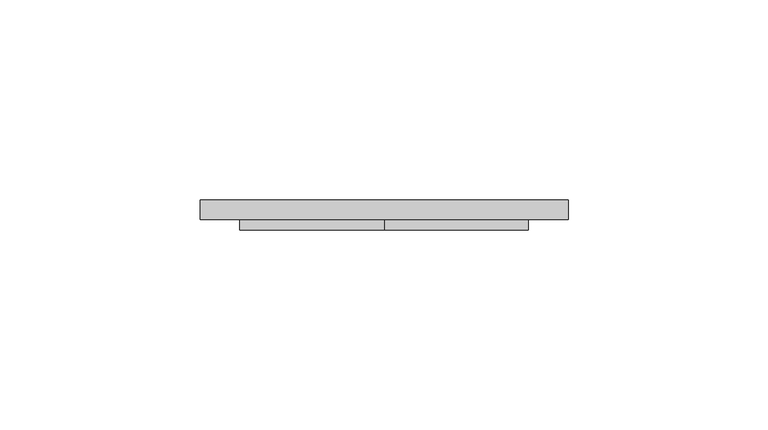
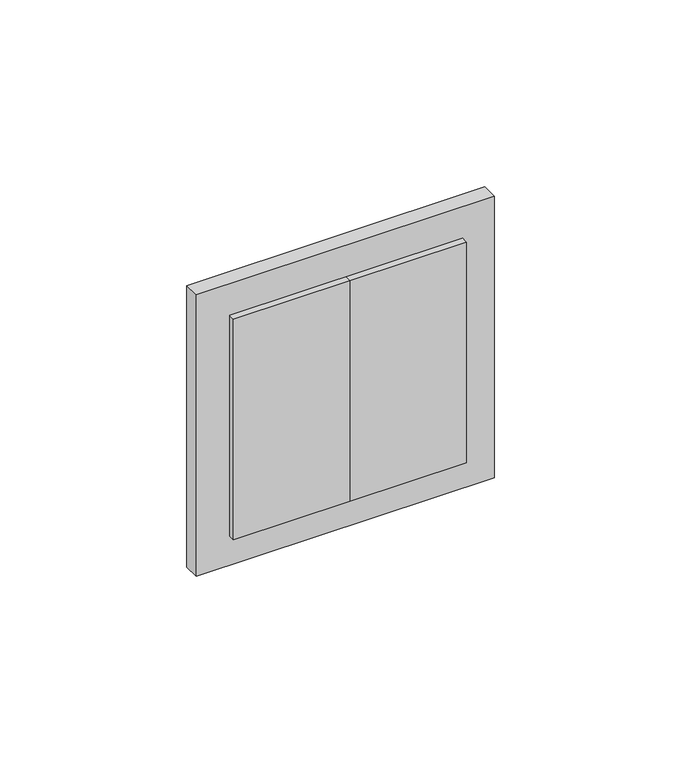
"""IFC4 building model written with IfcOpenShell, lengths in millimetres: proxy geometry, ZYR_06.01 Mecanismes Doble : 01 Interruptor Doble."""

import ifcopenshell
import ifcopenshell.guid

model = None  # the IFC model being written
_history = None  # IfcOwnerHistory: only IFC2X3 demands one
_inside = {}  # id of a spatial element -> (the spatial element, [elements in it])
_under = {}  # id of a project, library or spatial element -> (it, [spatial elements below it])
_declared = {}  # id of a project -> (the project, [libraries it declares])
_typed = {}  # id of a type object -> (the type object, [elements of that type])
_made_of = {}  # id of a material, layer set ... -> (it, [elements and type objects made of it])


def new_model(schema):
    """Start an empty IFC model of exactly this schema.

    Asked for "IFC4X3", IfcOpenShell would pick the latest addendum, in which some entities
    have other attributes; the version numbers below select the first issue.
    IFC2X3 requires an IfcOwnerHistory on every rooted entity: one is made here for all.
    """
    global model, _history
    if schema == "IFC4X3":
        model = ifcopenshell.file(schema_version=(4, 3, 0, 0))
    else:
        model = ifcopenshell.file(schema=schema)
    _inside.clear()
    _under.clear()
    _declared.clear()
    _typed.clear()
    _made_of.clear()
    _history = None
    if model.schema == "IFC2X3":
        org = make("IfcOrganization", Name="unknown")
        user = make(
            "IfcPersonAndOrganization",
            ThePerson=make("IfcPerson", FamilyName="unknown"),
            TheOrganization=org,
        )
        app = make(
            "IfcApplication",
            ApplicationDeveloper=org,
            Version="unknown",
            ApplicationFullName="unknown",
            ApplicationIdentifier="unknown",
        )
        _history = make(
            "IfcOwnerHistory",
            OwningUser=user,
            OwningApplication=app,
            ChangeAction="ADDED",
            CreationDate=0,
        )
    return model


def make(cls, **values):
    """One entity of the class cls with the attributes given. An attribute that is None is left unset."""
    return model.create_entity(
        cls, **{name: value for name, value in values.items() if value is not None}
    )


def rooted(cls, **values):
    """An entity with a GlobalId (a new one), such as an element, a storey or a relation."""
    return make(cls, GlobalId=ifcopenshell.guid.new(), OwnerHistory=_history, **values)


def si_unit(unit_type, name, prefix=None):
    """IfcSIUnit, for example si_unit("LENGTHUNIT", "METRE", prefix="MILLI")."""
    return make("IfcSIUnit", UnitType=unit_type, Prefix=prefix, Name=name)


def assignment(units):
    """IfcUnitAssignment: the units of a project."""
    return None if units is None else make("IfcUnitAssignment", Units=units)


def point(xyz):
    """IfcCartesianPoint."""
    return None if xyz is None else make("IfcCartesianPoint", Coordinates=xyz)


def direction(xyz):
    """IfcDirection."""
    return None if xyz is None else make("IfcDirection", DirectionRatios=xyz)


def frame(location, z_axis=None, x_axis=None):
    """IfcAxis2Placement3D, a coordinate frame: its origin and axes. An axis left out is left unset."""
    return make(
        "IfcAxis2Placement3D",
        Location=point(location),
        Axis=direction(z_axis),
        RefDirection=direction(x_axis),
    )


def origin():
    """The frame at (0, 0, 0) with its axes left unset."""
    return frame((0.0, 0.0, 0.0))


def place(relative_to, where):
    """IfcLocalPlacement: puts the frame where relative to a parent placement (None: the world)."""
    return make(
        "IfcLocalPlacement", PlacementRelTo=relative_to, RelativePlacement=where
    )


def context(
    kind, dimensions, precision=None, world=None, true_north=None, identifier=None
):
    """IfcGeometricRepresentationContext, for example the 3D "Model" context."""
    return make(
        "IfcGeometricRepresentationContext",
        ContextIdentifier=identifier,
        ContextType=kind,
        CoordinateSpaceDimension=dimensions,
        Precision=precision,
        WorldCoordinateSystem=world,
        TrueNorth=true_north,
    )


def project(units=None, contexts=None):
    """IfcProject with its units and contexts."""
    return rooted(
        "IfcProject",
        Name="project",
        RepresentationContexts=contexts,
        UnitsInContext=assignment(units),
    )


def spatial(cls, under=None, at=None, **own):
    """A site, building, storey or space (cls), placed at a placement, below another one or the project."""
    s = rooted(cls, ObjectPlacement=at, **own)
    if under is not None:
        _under.setdefault(under.id(), (under, []))[1].append(s)
    return s


def polyline(points):
    """IfcPolyline through the points."""
    return make("IfcPolyline", Points=[point(p) for p in points])


def outline(outer, holes=None, kind="AREA"):
    """IfcArbitraryClosedProfileDef: a profile drawn as a closed curve; with holes, ...WithVoids."""
    if holes is None:
        return make("IfcArbitraryClosedProfileDef", ProfileType=kind, OuterCurve=outer)
    return make(
        "IfcArbitraryProfileDefWithVoids",
        ProfileType=kind,
        OuterCurve=outer,
        InnerCurves=holes,
    )


def extrude(swept, where, along, depth):
    """IfcExtrudedAreaSolid: the profile swept, set in the frame where, extruded along a direction by depth."""
    return make(
        "IfcExtrudedAreaSolid",
        SweptArea=swept,
        Position=where,
        ExtrudedDirection=direction(along),
        Depth=depth,
    )


def shape(context_of_items, identifier, shape_type, items):
    """IfcShapeRepresentation: the items that make up one representation, for example the "Body"."""
    return make(
        "IfcShapeRepresentation",
        ContextOfItems=context_of_items,
        RepresentationIdentifier=identifier,
        RepresentationType=shape_type,
        Items=items,
    )


def source(mapping_origin, context_of_items, identifier, shape_type, items):
    """IfcRepresentationMap: a shape defined once, which mapped items show again and again."""
    return make(
        "IfcRepresentationMap",
        MappingOrigin=mapping_origin,
        MappedRepresentation=shape(context_of_items, identifier, shape_type, items),
    )


def transform(
    local_origin,
    x_axis=None,
    y_axis=None,
    z_axis=None,
    scale=None,
    scale2=None,
    scale3=None,
    uniform=True,
):
    """IfcCartesianTransformationOperator3D, or its non-uniform kind. x_axis, y_axis, z_axis: its Axis1, 2, 3."""
    if uniform:
        return make(
            "IfcCartesianTransformationOperator3D",
            Axis1=direction(x_axis),
            Axis2=direction(y_axis),
            LocalOrigin=point(local_origin),
            Scale=scale,
            Axis3=direction(z_axis),
        )
    return make(
        "IfcCartesianTransformationOperator3DnonUniform",
        Axis1=direction(x_axis),
        Axis2=direction(y_axis),
        LocalOrigin=point(local_origin),
        Scale=scale,
        Axis3=direction(z_axis),
        Scale2=scale2,
        Scale3=scale3,
    )


def mapped(mapping_source, mapping_target):
    """IfcMappedItem: shows the shape of a source again, moved by a transform."""
    return make(
        "IfcMappedItem", MappingSource=mapping_source, MappingTarget=mapping_target
    )


def made_of(thing, what):
    """Note that an element or type object is made of a material, layer set ...; save() writes the relation."""
    if what is not None:
        _made_of.setdefault(what.id(), (what, []))[1].append(thing)
    return thing


def element(
    cls,
    number,
    at=None,
    inside=None,
    cuts=None,
    type_object=None,
    material=None,
    context=None,
    identifier="Body",
    shape_type=None,
    held_by="IfcProductDefinitionShape",
    body=None,
    shapes=None,
    **own,
):
    """One element of the class cls, such as IfcWall. Its Tag is "e" and its number.

    at: its placement. inside: the storey or other place that contains it. cuts: it is an
    opening in that element (IfcRelVoidsElement). A single representation is given by context,
    identifier, shape_type and body (its items); several are given by shapes. held_by: the class
    of the entity that holds the representations. save() writes the other relations.
    """
    e = rooted(cls, Tag="e%d" % number, ObjectPlacement=at, **own)
    if body is not None:
        shapes = [shape(context, identifier, shape_type, body)]
    if shapes is not None:
        e.Representation = make(held_by, Representations=shapes)
    if inside is not None:
        _inside.setdefault(inside.id(), (inside, []))[1].append(e)
    if cuts is not None:
        rooted(
            "IfcRelVoidsElement", RelatingBuildingElement=cuts, RelatedOpeningElement=e
        )
    if type_object is not None:
        _typed.setdefault(type_object.id(), (type_object, []))[1].append(e)
    return made_of(e, material)


def aggregate(whole, parts):
    """IfcRelAggregates: a whole, such as a stair, and the parts it consists of."""
    return rooted("IfcRelAggregates", RelatingObject=whole, RelatedObjects=parts)


def save(model, path):
    """Write the relations noted so far, then the file.

    IfcRelAggregates (storeys below a building ...), IfcRelContainedInSpatialStructure (elements
    in a storey), IfcRelDefinesByType, IfcRelAssociatesMaterial and IfcRelDeclares: one each for
    every whole, place, type object, material and project.
    """
    for whole, parts in _under.values():
        aggregate(whole, parts)
    for where, things in _inside.values():
        rooted(
            "IfcRelContainedInSpatialStructure",
            RelatedElements=things,
            RelatingStructure=where,
        )
    for kind, things in _typed.values():
        rooted("IfcRelDefinesByType", RelatedObjects=things, RelatingType=kind)
    for what, things in _made_of.values():
        rooted("IfcRelAssociatesMaterial", RelatedObjects=things, RelatingMaterial=what)
    for by, libraries in _declared.values():
        rooted("IfcRelDeclares", RelatingContext=by, RelatedDefinitions=libraries)
    model.write(path)


def electrical_fixtures_e1f0a43d(model_context):
    return source(origin(), model_context, "Body", "SweptSolid", [
        extrude(outline(polyline([(46.0, -5.0), (-46.0, -5.0), (-46.0, 0.0), (46.0, 0.0), (46.0, -5.0)])), frame((0.0, 0.0, -46.0), z_axis=(0.0, 0.0, 1.0), x_axis=(1.0, 0.0, 0.0)), (0.0, 0.0, 1.0), 92.0),
        extrude(outline(polyline([(0.0, -7.5), (-36.0007826, -7.5), (-36.0007826, -5.0), (0.0, -5.0), (0.0, -7.5)])), frame((0.0, 0.0, -36.0021914), z_axis=(0.0, 0.0, 1.0), x_axis=(1.0, 0.0, 0.0)), (0.0, 0.0, 1.0), 72.0043829),
        extrude(outline(polyline([(36.0007826, -7.5), (0.0, -7.5), (0.0, -5.0), (36.0007826, -5.0), (36.0007826, -7.5)])), frame((0.0, 0.0, -36.0021914), z_axis=(0.0, 0.0, 1.0), x_axis=(1.0, 0.0, 0.0)), (0.0, 0.0, 1.0), 72.0043829),
    ])


if __name__ == "__main__":
    model = new_model("IFC4")
    model_context = context("Model", 3, world=origin())
    ifc_project = project(units=[si_unit("LENGTHUNIT", "METRE", prefix="MILLI")], contexts=[model_context])
    site = spatial("IfcSite", under=ifc_project)
    building = spatial("IfcBuilding", under=site)
    placement = place(None, origin())
    electrical_fixtures_shape = electrical_fixtures_e1f0a43d(model_context)
    element("IfcBuildingElementProxy", 1, Name="ZYR_06.01 Mecanismes Doble : 01 Interruptor Doble", ObjectType="ZYR_06.01 Mecanismes Doble : 01 Interruptor Doble", at=placement, inside=building, context=model_context, shape_type="MappedRepresentation", body=[
        mapped(electrical_fixtures_shape, transform((0.0, 0.0, 0.0), x_axis=(1.0, 0.0, 0.0), y_axis=(0.0, 1.0, 0.0), z_axis=(0.0, 0.0, 1.0))),
    ])
    save(model, "model.ifc")
